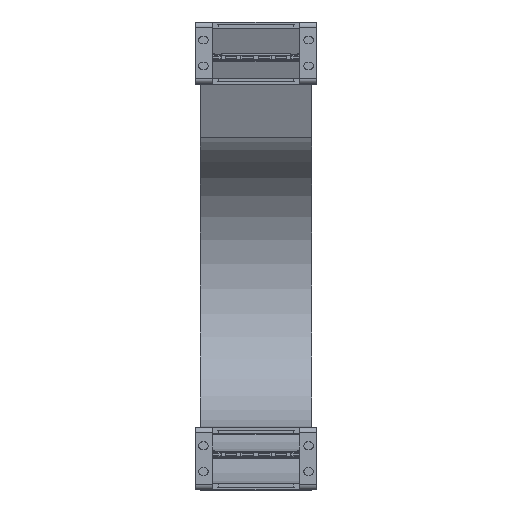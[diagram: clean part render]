
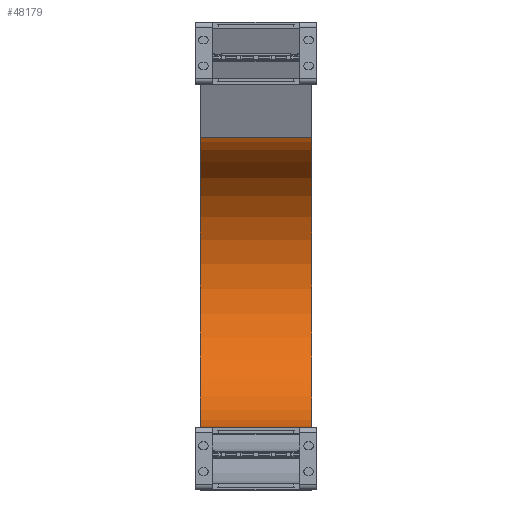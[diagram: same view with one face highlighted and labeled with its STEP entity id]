
A CAD part, top view. The second image highlights one B-rep face of the part: STEP entity #48179.
In plain terms, the highlighted cylindrical face has radius 84.5 mm (diameter 169 mm), a partial arc.
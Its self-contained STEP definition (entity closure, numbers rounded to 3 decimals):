
#47331=DIRECTION('',(-1.,0.,0.));
#47332=VECTOR('',#47331,65.);
#47333=CARTESIAN_POINT('',(32.5,36.,-400.));
#47334=LINE('',#47333,#47332);
#47345=DIRECTION('',(-1.,0.,0.));
#47346=VECTOR('',#47345,65.);
#47347=CARTESIAN_POINT('',(32.5,204.681,-407.334));
#47348=LINE('',#47347,#47346);
#47352=CARTESIAN_POINT('',(32.5,120.5,-400.));
#47353=DIRECTION('',(-1.,0.,0.));
#47354=DIRECTION('',(0.,0.996,-0.087));
#47355=AXIS2_PLACEMENT_3D('',#47352,#47353,#47354);
#47431=CARTESIAN_POINT('',(-32.5,120.5,-400.));
#47432=DIRECTION('',(-1.,0.,0.));
#47433=DIRECTION('',(0.,0.996,-0.087));
#47434=AXIS2_PLACEMENT_3D('',#47431,#47432,#47433);
#47553=CARTESIAN_POINT('',(32.5,204.681,-407.334));
#47554=CARTESIAN_POINT('',(-32.5,204.681,-407.334));
#47555=VERTEX_POINT('',#47553);
#47556=VERTEX_POINT('',#47554);
#47577=CARTESIAN_POINT('',(32.5,36.,-400.));
#47578=CARTESIAN_POINT('',(-32.5,36.,-400.));
#47579=VERTEX_POINT('',#47577);
#47580=VERTEX_POINT('',#47578);
#48165=CARTESIAN_POINT('',(1.,120.5,-400.));
#48166=DIRECTION('',(-1.,0.,0.));
#48167=DIRECTION('',(0.,-0.996,0.087));
#48168=AXIS2_PLACEMENT_3D('',#48165,#48166,#48167);
#48169=CYLINDRICAL_SURFACE('',#48168,84.5);
#48171=ORIENTED_EDGE('',*,*,#48170,.F.);
#48173=ORIENTED_EDGE('',*,*,#48172,.T.);
#48174=ORIENTED_EDGE('',*,*,#48148,.T.);
#48176=ORIENTED_EDGE('',*,*,#48175,.F.);
#48177=EDGE_LOOP('',(#48171,#48173,#48174,#48176));
#48178=FACE_OUTER_BOUND('',#48177,.F.);
#47356=CIRCLE('',#47355,84.5);
#47435=CIRCLE('',#47434,84.5);
#48148=EDGE_CURVE('',#47579,#47580,#47334,.T.);
#48170=EDGE_CURVE('',#47555,#47556,#47348,.T.);
#48172=EDGE_CURVE('',#47555,#47579,#47356,.T.);
#48175=EDGE_CURVE('',#47556,#47580,#47435,.T.);
#48179=ADVANCED_FACE('',(#48178),#48169,.F.);
